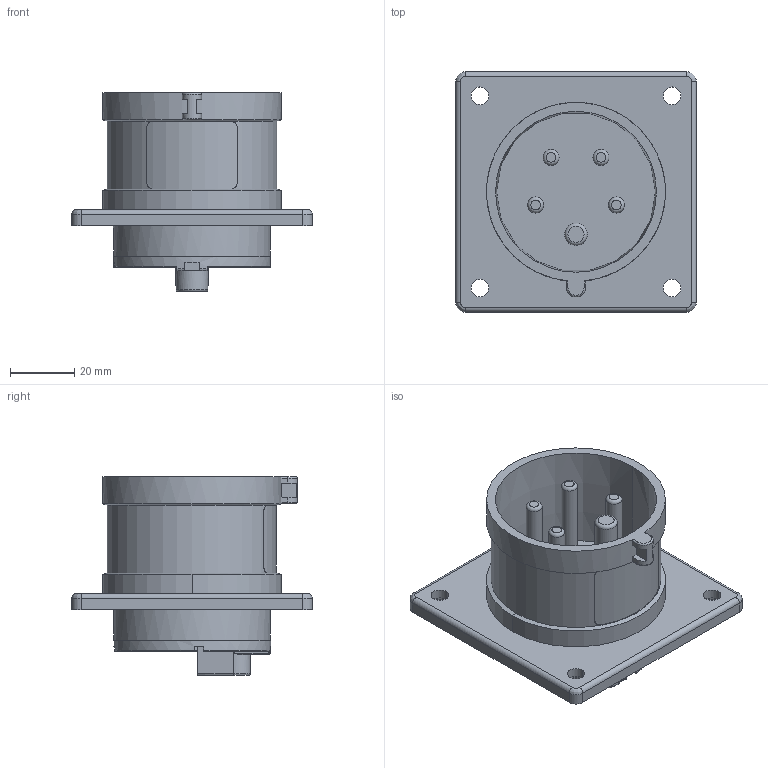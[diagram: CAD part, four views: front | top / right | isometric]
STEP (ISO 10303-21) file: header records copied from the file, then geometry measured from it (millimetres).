
FILE_DESCRIPTION(('FreeCAD Model'),'2;1');
FILE_NAME('Open CASCADE Shape Model','2026-02-04T09:20:53',(''),(''), 'Open CASCADE STEP processor 7.8','FreeCAD','Unknown');
FILE_SCHEMA(('AUTOMOTIVE_DESIGN { 1 0 10303 214 1 1 1 1 }'));
Length unit declared in the file: millimetre
Products named in the file (9): TL3L16453; Corpo tomada; Pino Neutro; Pino L3; Pino Terra; Pino L2; Pino L1; Base interna; Terminais
Assembly tree (8 placements, depth 2):
  TL3L16453
    Corpo tomada
    Pino Neutro
    Pino L3
    Pino Terra
    Pino L2
    Pino L1
    Base interna
    Terminais
Bounding box: 75 x 75 x 62 mm (x, y, z)
Volume: 74184.7 mm3; surface area: 41424.5 mm2
Topology: 8 solids, 14 shells, 403 faces, 1008 edges, 658 vertices
Faces by surface type: plane 259, cylinder 104, torus 22, cone 12, bspline 6
Full cylindrical faces by diameter (mm): 5 x4, 7 x1, 49 x2
Entity records: 12764 total; most frequent: CARTESIAN_POINT 2744, DIRECTION 2035, ORIENTED_EDGE 2016, EDGE_CURVE 1008, LINE 699, VECTOR 699, AXIS2_PLACEMENT_3D 668, VERTEX_POINT 658
